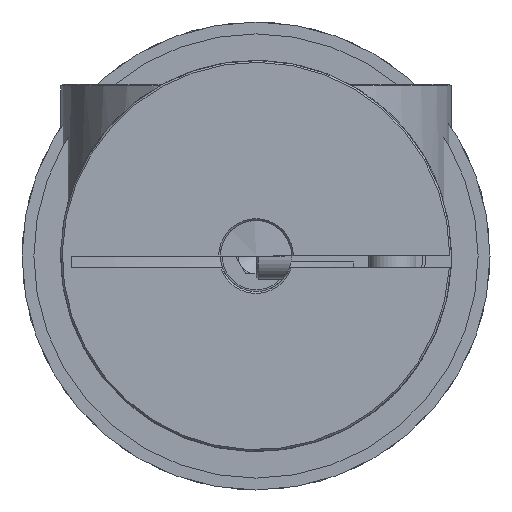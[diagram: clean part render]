
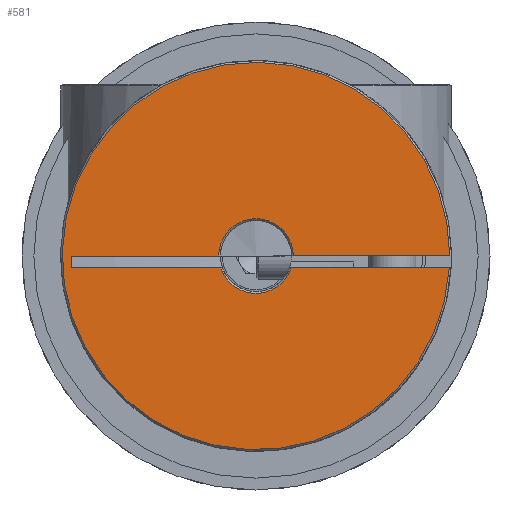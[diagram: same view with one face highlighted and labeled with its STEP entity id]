
A CAD part, left-side view. The second image highlights one B-rep face of the part: STEP entity #581.
In plain terms, the highlighted planar face has unit normal (-1, 0, 0) as drawn and (0, 0, 1) by its records, which use the part's own axes.
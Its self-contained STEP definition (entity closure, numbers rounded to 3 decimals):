
#581 = ADVANCED_FACE( 'NONE', ( #1171 ), #1172, .T. );
#1171 = FACE_OUTER_BOUND( '', #1688, .T. );
#1172 = PLANE( '', #1689 );
#1688 = EDGE_LOOP( '', ( #2582, #2583, #2584, #2585, #2586, #2587, #2588, #2589 ) );
#1689 = AXIS2_PLACEMENT_3D( '', #2590, #2591, #2592 );
#2582 = ORIENTED_EDGE( '', *, *, #3200, .F. );
#2583 = ORIENTED_EDGE( '', *, *, #3241, .T. );
#2584 = ORIENTED_EDGE( '', *, *, #3242, .F. );
#2585 = ORIENTED_EDGE( '', *, *, #3234, .T. );
#2586 = ORIENTED_EDGE( '', *, *, #3236, .T. );
#2587 = ORIENTED_EDGE( '', *, *, #3195, .T. );
#2588 = ORIENTED_EDGE( '', *, *, #3238, .T. );
#2589 = ORIENTED_EDGE( '', *, *, #3240, .F. );
#2590 = CARTESIAN_POINT( '', ( 0., 0., 29. ) );
#2591 = DIRECTION( '', ( 0., 0., 1. ) );
#2592 = DIRECTION( '', ( 1., 0., 0. ) );
#3195 = EDGE_CURVE( 'NONE', #3607, #3604, #3608, .F. );
#3200 = EDGE_CURVE( 'NONE', #3615, #3617, #3618, .F. );
#3234 = EDGE_CURVE( 'NONE', #3676, #3674, #3677, .T. );
#3236 = EDGE_CURVE( 'NONE', #3674, #3607, #3679, .T. );
#3238 = EDGE_CURVE( 'NONE', #3604, #3682, #3683, .T. );
#3240 = EDGE_CURVE( 'NONE', #3617, #3682, #3685, .F. );
#3241 = EDGE_CURVE( 'NONE', #3615, #3686, #3687, .F. );
#3242 = EDGE_CURVE( 'NONE', #3676, #3686, #3688, .F. );
#3604 = VERTEX_POINT( 'NONE', #4328 );
#3607 = VERTEX_POINT( 'NONE', #4334 );
#3608 = CIRCLE( '', #4335, 6.3 );
#3615 = VERTEX_POINT( 'NONE', #4346 );
#3617 = VERTEX_POINT( 'NONE', #4349 );
#3618 = LINE( '', #4350, #4351 );
#3674 = VERTEX_POINT( 'NONE', #4583 );
#3676 = VERTEX_POINT( 'NONE', #4588 );
#3677 = CIRCLE( '', #4589, 32.7 );
#3679 = LINE( '', #4592, #4593 );
#3682 = VERTEX_POINT( 'NONE', #4596 );
#3683 = LINE( '', #4597, #4598 );
#3685 = LINE( '', #4600, #4601 );
#3686 = VERTEX_POINT( 'NONE', #4602 );
#3687 = CIRCLE( '', #4603, 6.3 );
#3688 = LINE( '', #4604, #4605 );
#4328 = CARTESIAN_POINT( '', ( -5.974, -2., 29. ) );
#4334 = CARTESIAN_POINT( '', ( 5.974, -2., 29. ) );
#4335 = AXIS2_PLACEMENT_3D( '', #5027, #5028, #5029 );
#4346 = CARTESIAN_POINT( '', ( -6.3, 0., 29. ) );
#4349 = CARTESIAN_POINT( '', ( -31.103, 0., 29. ) );
#4350 = CARTESIAN_POINT( '', ( 16.5, 0., 29. ) );
#4351 = VECTOR( '', #5035, 1000. );
#4583 = CARTESIAN_POINT( '', ( 32.639, -2., 29. ) );
#4588 = CARTESIAN_POINT( '', ( 32.7, 0., 29. ) );
#4589 = AXIS2_PLACEMENT_3D( '', #5096, #5097, #5098 );
#4592 = CARTESIAN_POINT( '', ( 0., -2., 29. ) );
#4593 = VECTOR( '', #5100, 1000. );
#4596 = CARTESIAN_POINT( '', ( -31.103, -2., 29. ) );
#4597 = CARTESIAN_POINT( '', ( 0., -2., 29. ) );
#4598 = VECTOR( '', #5104, 1000. );
#4600 = CARTESIAN_POINT( '', ( -31.103, -2., 29. ) );
#4601 = VECTOR( '', #5108, 1000. );
#4602 = CARTESIAN_POINT( '', ( 6.3, 0., 29. ) );
#4603 = AXIS2_PLACEMENT_3D( '', #5109, #5110, #5111 );
#4604 = CARTESIAN_POINT( '', ( 16.5, 0., 29. ) );
#4605 = VECTOR( '', #5112, 1000. );
#5027 = CARTESIAN_POINT( '', ( 0., 0., 29. ) );
#5028 = DIRECTION( '', ( 0., 0., 1. ) );
#5029 = DIRECTION( '', ( 1., 0., 0. ) );
#5035 = DIRECTION( '', ( 1., 0., 0. ) );
#5096 = CARTESIAN_POINT( '', ( 0., 0., 29. ) );
#5097 = DIRECTION( '', ( 0., 0., 1. ) );
#5098 = DIRECTION( '', ( 1., 0., 0. ) );
#5100 = DIRECTION( '', ( -1., 0., 0. ) );
#5104 = DIRECTION( '', ( -1., 0., 0. ) );
#5108 = DIRECTION( '', ( 0., 1., 0. ) );
#5109 = CARTESIAN_POINT( '', ( 0., 0., 29. ) );
#5110 = DIRECTION( '', ( 0., 0., 1. ) );
#5111 = DIRECTION( '', ( 1., 0., 0. ) );
#5112 = DIRECTION( '', ( 1., 0., 0. ) );
